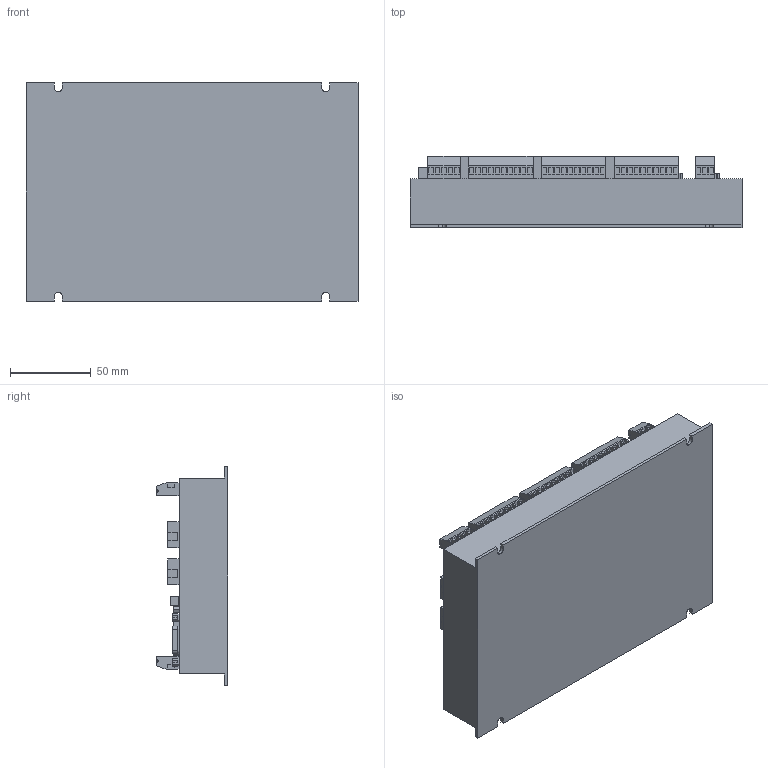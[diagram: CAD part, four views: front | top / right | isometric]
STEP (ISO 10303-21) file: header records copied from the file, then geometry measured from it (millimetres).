
FILE_DESCRIPTION (( 'STEP AP214' ), '1' );
FILE_NAME ('ZMC464.STEP', '2018-08-24T09:58:23', ( 'Microsoft' ), ( ' ' ), 'SwSTEP 2.0', 'SolidWorks 2014', '' );
FILE_SCHEMA (( 'AUTOMOTIVE_DESIGN' ));
Length unit declared in the file: millimetre
Products named in the file (12): 9渀-2齬-鼠芛; 26渀-3齬-譫芛; ZMC464-432-406-俋褲; ZMC464; 三连灯; 厙諳-酗; 厙諳-傻; 傷赽-苤-5; 傷赽-苤-3; 傷赽-苤-10; 腑; U攫
Assembly tree (21 placements, depth 3):
  ZMC464
    ZMC464-432-406-俋褲
    26渀-3齬-譫芛  x3
    9渀-2齬-鼠芛
    U攫
    腑
    傷赽-苤-10  x4
    傷赽-苤-3
    傷赽-苤-5  x3
    厙諳-傻
    厙諳-酗
    三连灯
      腑  x3
Bounding box: 205 x 44 x 135 mm (x, y, z)
Volume: 776918.4 mm3; surface area: 97323.1 mm2
Topology: 77 solids, 77 shells, 2613 faces, 6741 edges, 4490 vertices
Faces by surface type: plane 1872, bspline 388, cylinder 345, sphere 8
Entity records: 74500 total; most frequent: CARTESIAN_POINT 28019, ORIENTED_EDGE 9928, DIRECTION 7532, EDGE_CURVE 4964, VECTOR 3840, LINE 3840, VERTEX_POINT 3309, EDGE_LOOP 1955
